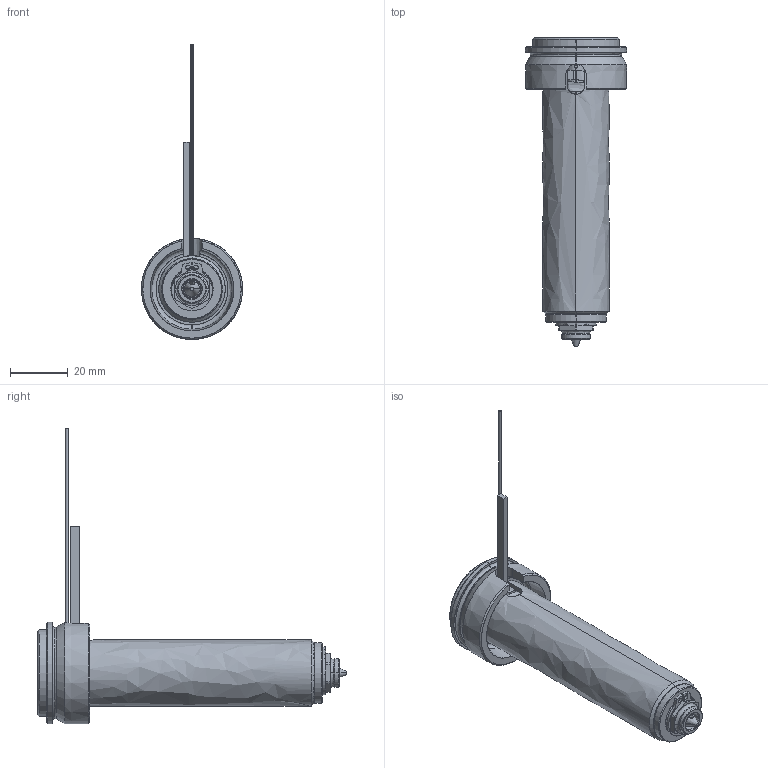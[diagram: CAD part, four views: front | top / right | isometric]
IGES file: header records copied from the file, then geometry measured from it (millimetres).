
Start section: SolidWorks IGES file using analytic representation for surfaces
Global section: file name: C:\Documents and Settings\ws-20\Desktop\TEM\UGEP3052-M-A-0 [Øf-1.10 ØC-6.0].IGS; native system: SolidWorks 2012; preprocessor: SolidWorks 2012; author: ws-20; date: 120402.112324; units: millimetre
Bounding box: 35 x 106.8 x 102.1 mm (x, y, z)
Surface area: 18215.6 mm2 (no closed solid volume)
Topology: 0 solids, 0 shells, 126 faces, 1832 edges, 1832 vertices
Faces by surface type: revolution 75, bspline 51
